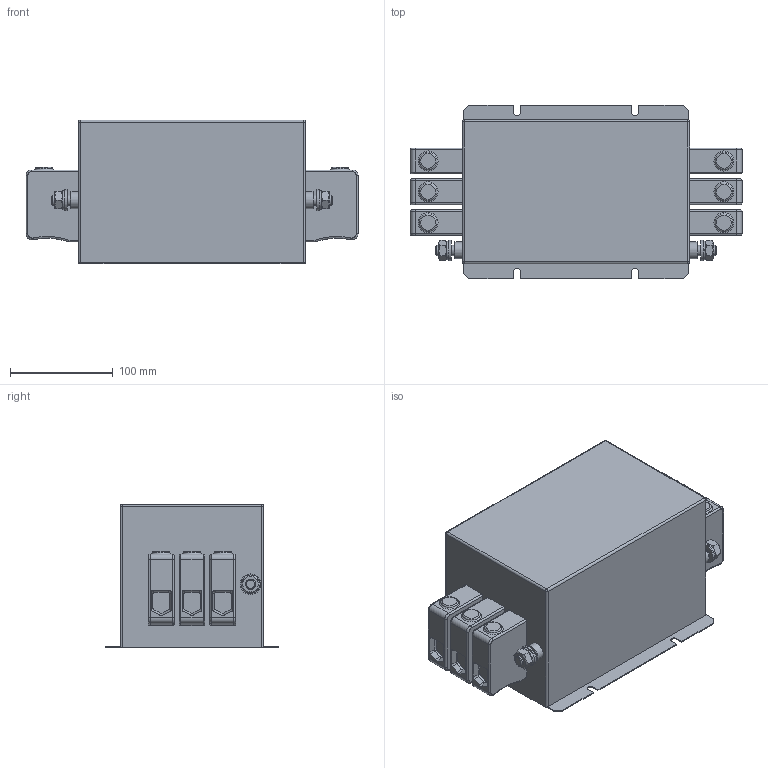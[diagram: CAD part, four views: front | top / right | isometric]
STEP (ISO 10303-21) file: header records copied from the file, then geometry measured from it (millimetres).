
FILE_DESCRIPTION((''),'2;1');
FILE_NAME('P:\Construction\INVENTOR_Projektedaten\HousingDesign\FN3120H-150-40.stp','2013-11-18T13:57:37',('erika.jenzer'),(''),'Autodesk Inventor 2013','Autodesk Inventor 2013','');
FILE_SCHEMA(('AUTOMOTIVE_DESIGN { 1 0 10303 214 1 1 1 1 }'));
Length unit declared in the file: millimetre
Products named in the file (1): FN3120H-150-40
Bounding box: 323 x 169 x 140 mm (x, y, z)
Volume: 4031396.6 mm3; surface area: 354707.4 mm2
Topology: 1 solids, 7 shells, 456 faces, 1110 edges, 698 vertices
Faces by surface type: plane 221, cylinder 153, torus 48, cone 18, sphere 16
Full cylindrical faces by diameter (mm): 9.188 x2, 10 x6, 10.5 x2, 12.7 x3, 16.5 x2, 20 x2
Entity records: 13586 total; most frequent: CARTESIAN_POINT 2442, DIRECTION 2346, ORIENTED_EDGE 2116, EDGE_CURVE 1058, AXIS2_PLACEMENT_3D 880, VERTEX_POINT 688, VECTOR 586, LINE 586
